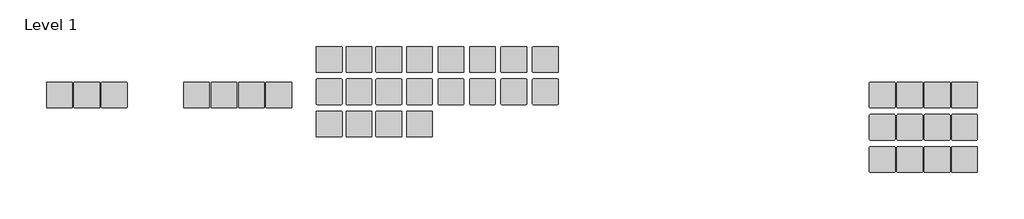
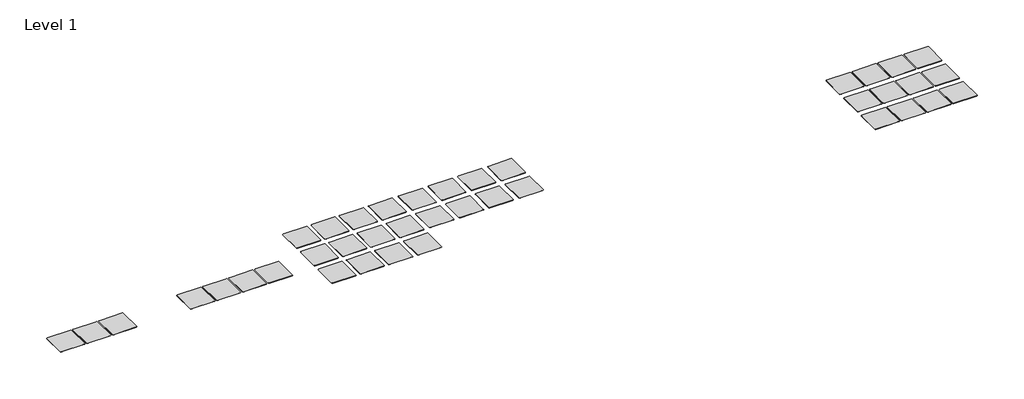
# One storey: 39 proxies.
"""IFC4 building model written with IfcOpenShell, lengths in millimetres."""

from ifc_helpers import new_model, si_unit, origin, place, context, project, spatial, transform, mapped, element, save
from components import materialsample_type_1_aebe469f

model = new_model("IFC4")

# Units and contexts
model_context = context("Model", 3, world=origin())
ifc_project = project(units=[si_unit("LENGTHUNIT", "METRE", prefix="MILLI")], contexts=[model_context])

# Site, building, storey
site = spatial("IfcSite", under=ifc_project)
building = spatial("IfcBuilding", under=site)
storey = spatial("IfcBuildingStorey", under=building, Name="Level 1", Elevation=0.0)

# Proxies
placement = place(None, origin())
materialsample_type_1_shape = materialsample_type_1_aebe469f(model_context)
element("IfcBuildingElementProxy", 1, Name="MaterialSample : Type 1", ObjectType="MaterialSample : Type 1", at=placement, inside=storey, context=model_context, shape_type="MappedRepresentation", body=[
    mapped(materialsample_type_1_shape, transform((25476.2, 304.8, 0.0), x_axis=(1.0, 0.0, 0.0), y_axis=(0.0, 1.0, 0.0), z_axis=(0.0, 0.0, 1.0))),
])
element("IfcBuildingElementProxy", 2, Name="MaterialSample : Type 1", ObjectType="MaterialSample : Type 1", at=placement, inside=storey, context=model_context, shape_type="MappedRepresentation", body=[
    mapped(materialsample_type_1_shape, transform((0.0, 0.0, 0.0), x_axis=(1.0, 0.0, 0.0), y_axis=(0.0, 1.0, 0.0), z_axis=(0.0, 0.0, 1.0))),
])
element("IfcBuildingElementProxy", 3, Name="MaterialSample : Type 1", ObjectType="MaterialSample : Type 1", at=placement, inside=storey, context=model_context, shape_type="MappedRepresentation", body=[
    mapped(materialsample_type_1_shape, transform((25476.2, 3352.8, 0.0), x_axis=(1.0, 0.0, 0.0), y_axis=(0.0, 1.0, 0.0), z_axis=(0.0, 0.0, 1.0))),
])
element("IfcBuildingElementProxy", 4, Name="MaterialSample : Type 1", ObjectType="MaterialSample : Type 1", at=placement, inside=storey, context=model_context, shape_type="MappedRepresentation", body=[
    mapped(materialsample_type_1_shape, transform((2590.8, 0.0, 0.0), x_axis=(1.0, 0.0, 0.0), y_axis=(0.0, 1.0, 0.0), z_axis=(0.0, 0.0, 1.0))),
])
element("IfcBuildingElementProxy", 5, Name="MaterialSample : Type 1", ObjectType="MaterialSample : Type 1", at=placement, inside=storey, context=model_context, shape_type="MappedRepresentation", body=[
    mapped(materialsample_type_1_shape, transform((28295.6, 3352.8, 0.0), x_axis=(1.0, 0.0, 0.0), y_axis=(0.0, 1.0, 0.0), z_axis=(0.0, 0.0, 1.0))),
])
element("IfcBuildingElementProxy", 6, Name="MaterialSample : Type 1", ObjectType="MaterialSample : Type 1", at=placement, inside=storey, context=model_context, shape_type="MappedRepresentation", body=[
    mapped(materialsample_type_1_shape, transform((5181.6, 0.0, 0.0), x_axis=(1.0, 0.0, 0.0), y_axis=(0.0, 1.0, 0.0), z_axis=(0.0, 0.0, 1.0))),
])
element("IfcBuildingElementProxy", 7, Name="MaterialSample : Type 1", ObjectType="MaterialSample : Type 1", at=placement, inside=storey, context=model_context, shape_type="MappedRepresentation", body=[
    mapped(materialsample_type_1_shape, transform((34010.6, 3352.8, 0.0), x_axis=(1.0, 0.0, 0.0), y_axis=(0.0, 1.0, 0.0), z_axis=(0.0, 0.0, 1.0))),
])
element("IfcBuildingElementProxy", 8, Name="MaterialSample : Type 1", ObjectType="MaterialSample : Type 1", at=placement, inside=storey, context=model_context, shape_type="MappedRepresentation", body=[
    mapped(materialsample_type_1_shape, transform((31115.0, 3352.8, 0.0), x_axis=(1.0, 0.0, 0.0), y_axis=(0.0, 1.0, 0.0), z_axis=(0.0, 0.0, 1.0))),
])
element("IfcBuildingElementProxy", 9, Name="MaterialSample : Type 1", ObjectType="MaterialSample : Type 1", at=placement, inside=storey, context=model_context, shape_type="MappedRepresentation", body=[
    mapped(materialsample_type_1_shape, transform((12954.0, 0.0, 0.0), x_axis=(1.0, 0.0, 0.0), y_axis=(0.0, 1.0, 0.0), z_axis=(0.0, 0.0, 1.0))),
])
element("IfcBuildingElementProxy", 10, Name="MaterialSample : Type 1", ObjectType="MaterialSample : Type 1", at=placement, inside=storey, context=model_context, shape_type="MappedRepresentation", body=[
    mapped(materialsample_type_1_shape, transform((15544.8, 0.0, 0.0), x_axis=(1.0, 0.0, 0.0), y_axis=(0.0, 1.0, 0.0), z_axis=(0.0, 0.0, 1.0))),
])
element("IfcBuildingElementProxy", 11, Name="MaterialSample : Type 1", ObjectType="MaterialSample : Type 1", at=placement, inside=storey, context=model_context, shape_type="MappedRepresentation", body=[
    mapped(materialsample_type_1_shape, transform((18135.6, 0.0, 0.0), x_axis=(1.0, 0.0, 0.0), y_axis=(0.0, 1.0, 0.0), z_axis=(0.0, 0.0, 1.0))),
])
element("IfcBuildingElementProxy", 12, Name="MaterialSample : Type 1", ObjectType="MaterialSample : Type 1", at=placement, inside=storey, context=model_context, shape_type="MappedRepresentation", body=[
    mapped(materialsample_type_1_shape, transform((20726.4, 0.0, 0.0), x_axis=(1.0, 0.0, 0.0), y_axis=(0.0, 1.0, 0.0), z_axis=(0.0, 0.0, 1.0))),
])
element("IfcBuildingElementProxy", 13, Name="MaterialSample : Type 1", ObjectType="MaterialSample : Type 1", at=placement, inside=storey, context=model_context, shape_type="MappedRepresentation", body=[
    mapped(materialsample_type_1_shape, transform((28295.6, 304.8, 0.0), x_axis=(1.0, 0.0, 0.0), y_axis=(0.0, 1.0, 0.0), z_axis=(0.0, 0.0, 1.0))),
])
element("IfcBuildingElementProxy", 14, Name="MaterialSample : Type 1", ObjectType="MaterialSample : Type 1", at=placement, inside=storey, context=model_context, shape_type="MappedRepresentation", body=[
    mapped(materialsample_type_1_shape, transform((31115.0, 304.8, 0.0), x_axis=(1.0, 0.0, 0.0), y_axis=(0.0, 1.0, 0.0), z_axis=(0.0, 0.0, 1.0))),
])
element("IfcBuildingElementProxy", 15, Name="MaterialSample : Type 1", ObjectType="MaterialSample : Type 1", at=placement, inside=storey, context=model_context, shape_type="MappedRepresentation", body=[
    mapped(materialsample_type_1_shape, transform((34010.6, 304.8, 0.0), x_axis=(1.0, 0.0, 0.0), y_axis=(0.0, 1.0, 0.0), z_axis=(0.0, 0.0, 1.0))),
])
element("IfcBuildingElementProxy", 16, Name="MaterialSample : Type 1", ObjectType="MaterialSample : Type 1", at=placement, inside=storey, context=model_context, shape_type="MappedRepresentation", body=[
    mapped(materialsample_type_1_shape, transform((25476.2, -2743.2, 0.0), x_axis=(1.0, 0.0, 0.0), y_axis=(0.0, 1.0, 0.0), z_axis=(0.0, 0.0, 1.0))),
])
element("IfcBuildingElementProxy", 17, Name="MaterialSample : Type 1", ObjectType="MaterialSample : Type 1", at=placement, inside=storey, context=model_context, shape_type="MappedRepresentation", body=[
    mapped(materialsample_type_1_shape, transform((28295.6, -2743.2, 0.0), x_axis=(1.0, 0.0, 0.0), y_axis=(0.0, 1.0, 0.0), z_axis=(0.0, 0.0, 1.0))),
])
element("IfcBuildingElementProxy", 18, Name="MaterialSample : Type 1", ObjectType="MaterialSample : Type 1", at=placement, inside=storey, context=model_context, shape_type="MappedRepresentation", body=[
    mapped(materialsample_type_1_shape, transform((31115.0, -2743.2, 0.0), x_axis=(1.0, 0.0, 0.0), y_axis=(0.0, 1.0, 0.0), z_axis=(0.0, 0.0, 1.0))),
])
element("IfcBuildingElementProxy", 19, Name="MaterialSample : Type 1", ObjectType="MaterialSample : Type 1", at=placement, inside=storey, context=model_context, shape_type="MappedRepresentation", body=[
    mapped(materialsample_type_1_shape, transform((34010.6, -2743.2, 0.0), x_axis=(1.0, 0.0, 0.0), y_axis=(0.0, 1.0, 0.0), z_axis=(0.0, 0.0, 1.0))),
])
element("IfcBuildingElementProxy", 20, Name="MaterialSample : Type 1", ObjectType="MaterialSample : Type 1", at=placement, inside=storey, context=model_context, shape_type="MappedRepresentation", body=[
    mapped(materialsample_type_1_shape, transform((36982.4, 3352.8, 0.0), x_axis=(1.0, 0.0, 0.0), y_axis=(0.0, 1.0, 0.0), z_axis=(0.0, 0.0, 1.0))),
])
element("IfcBuildingElementProxy", 21, Name="MaterialSample : Type 1", ObjectType="MaterialSample : Type 1", at=placement, inside=storey, context=model_context, shape_type="MappedRepresentation", body=[
    mapped(materialsample_type_1_shape, transform((39954.2, 3352.8, 0.0), x_axis=(1.0, 0.0, 0.0), y_axis=(0.0, 1.0, 0.0), z_axis=(0.0, 0.0, 1.0))),
])
element("IfcBuildingElementProxy", 22, Name="MaterialSample : Type 1", ObjectType="MaterialSample : Type 1", at=placement, inside=storey, context=model_context, shape_type="MappedRepresentation", body=[
    mapped(materialsample_type_1_shape, transform((42926.0, 3352.8, 0.0), x_axis=(1.0, 0.0, 0.0), y_axis=(0.0, 1.0, 0.0), z_axis=(0.0, 0.0, 1.0))),
])
element("IfcBuildingElementProxy", 23, Name="MaterialSample : Type 1", ObjectType="MaterialSample : Type 1", at=placement, inside=storey, context=model_context, shape_type="MappedRepresentation", body=[
    mapped(materialsample_type_1_shape, transform((45897.8, 3352.8, 0.0), x_axis=(1.0, 0.0, 0.0), y_axis=(0.0, 1.0, 0.0), z_axis=(0.0, 0.0, 1.0))),
])
element("IfcBuildingElementProxy", 24, Name="MaterialSample : Type 1", ObjectType="MaterialSample : Type 1", at=placement, inside=storey, context=model_context, shape_type="MappedRepresentation", body=[
    mapped(materialsample_type_1_shape, transform((36982.4, 304.8, 0.0), x_axis=(1.0, 0.0, 0.0), y_axis=(0.0, 1.0, 0.0), z_axis=(0.0, 0.0, 1.0))),
])
element("IfcBuildingElementProxy", 25, Name="MaterialSample : Type 1", ObjectType="MaterialSample : Type 1", at=placement, inside=storey, context=model_context, shape_type="MappedRepresentation", body=[
    mapped(materialsample_type_1_shape, transform((39954.2, 304.8, 0.0), x_axis=(1.0, 0.0, 0.0), y_axis=(0.0, 1.0, 0.0), z_axis=(0.0, 0.0, 1.0))),
])
element("IfcBuildingElementProxy", 26, Name="MaterialSample : Type 1", ObjectType="MaterialSample : Type 1", at=placement, inside=storey, context=model_context, shape_type="MappedRepresentation", body=[
    mapped(materialsample_type_1_shape, transform((42926.0, 304.8, 0.0), x_axis=(1.0, 0.0, 0.0), y_axis=(0.0, 1.0, 0.0), z_axis=(0.0, 0.0, 1.0))),
])
element("IfcBuildingElementProxy", 27, Name="MaterialSample : Type 1", ObjectType="MaterialSample : Type 1", at=placement, inside=storey, context=model_context, shape_type="MappedRepresentation", body=[
    mapped(materialsample_type_1_shape, transform((45897.8, 304.8, 0.0), x_axis=(1.0, 0.0, 0.0), y_axis=(0.0, 1.0, 0.0), z_axis=(0.0, 0.0, 1.0))),
])
element("IfcBuildingElementProxy", 28, Name="MaterialSample : Type 1", ObjectType="MaterialSample : Type 1", at=placement, inside=storey, context=model_context, shape_type="MappedRepresentation", body=[
    mapped(materialsample_type_1_shape, transform((77724.0, 0.0, 0.0), x_axis=(1.0, 0.0, 0.0), y_axis=(0.0, 1.0, 0.0), z_axis=(0.0, 0.0, 1.0))),
])
element("IfcBuildingElementProxy", 29, Name="MaterialSample : Type 1", ObjectType="MaterialSample : Type 1", at=placement, inside=storey, context=model_context, shape_type="MappedRepresentation", body=[
    mapped(materialsample_type_1_shape, transform((80314.8, 0.0, 0.0), x_axis=(1.0, 0.0, 0.0), y_axis=(0.0, 1.0, 0.0), z_axis=(0.0, 0.0, 1.0))),
])
element("IfcBuildingElementProxy", 30, Name="MaterialSample : Type 1", ObjectType="MaterialSample : Type 1", at=placement, inside=storey, context=model_context, shape_type="MappedRepresentation", body=[
    mapped(materialsample_type_1_shape, transform((82905.6, 0.0, 0.0), x_axis=(1.0, 0.0, 0.0), y_axis=(0.0, 1.0, 0.0), z_axis=(0.0, 0.0, 1.0))),
])
element("IfcBuildingElementProxy", 31, Name="MaterialSample : Type 1", ObjectType="MaterialSample : Type 1", at=placement, inside=storey, context=model_context, shape_type="MappedRepresentation", body=[
    mapped(materialsample_type_1_shape, transform((85496.4, 0.0, 0.0), x_axis=(1.0, 0.0, 0.0), y_axis=(0.0, 1.0, 0.0), z_axis=(0.0, 0.0, 1.0))),
])
element("IfcBuildingElementProxy", 32, Name="MaterialSample : Type 1", ObjectType="MaterialSample : Type 1", at=placement, inside=storey, context=model_context, shape_type="MappedRepresentation", body=[
    mapped(materialsample_type_1_shape, transform((77724.0, -3048.0, 0.0), x_axis=(1.0, 0.0, 0.0), y_axis=(0.0, 1.0, 0.0), z_axis=(0.0, 0.0, 1.0))),
])
element("IfcBuildingElementProxy", 33, Name="MaterialSample : Type 1", ObjectType="MaterialSample : Type 1", at=placement, inside=storey, context=model_context, shape_type="MappedRepresentation", body=[
    mapped(materialsample_type_1_shape, transform((80314.8, -3048.0, 0.0), x_axis=(1.0, 0.0, 0.0), y_axis=(0.0, 1.0, 0.0), z_axis=(0.0, 0.0, 1.0))),
])
element("IfcBuildingElementProxy", 34, Name="MaterialSample : Type 1", ObjectType="MaterialSample : Type 1", at=placement, inside=storey, context=model_context, shape_type="MappedRepresentation", body=[
    mapped(materialsample_type_1_shape, transform((82905.6, -3048.0, 0.0), x_axis=(1.0, 0.0, 0.0), y_axis=(0.0, 1.0, 0.0), z_axis=(0.0, 0.0, 1.0))),
])
element("IfcBuildingElementProxy", 35, Name="MaterialSample : Type 1", ObjectType="MaterialSample : Type 1", at=placement, inside=storey, context=model_context, shape_type="MappedRepresentation", body=[
    mapped(materialsample_type_1_shape, transform((85496.4, -3048.0, 0.0), x_axis=(1.0, 0.0, 0.0), y_axis=(0.0, 1.0, 0.0), z_axis=(0.0, 0.0, 1.0))),
])
element("IfcBuildingElementProxy", 36, Name="MaterialSample : Type 1", ObjectType="MaterialSample : Type 1", at=placement, inside=storey, context=model_context, shape_type="MappedRepresentation", body=[
    mapped(materialsample_type_1_shape, transform((77724.0, -6096.0, 0.0), x_axis=(1.0, 0.0, 0.0), y_axis=(0.0, 1.0, 0.0), z_axis=(0.0, 0.0, 1.0))),
])
element("IfcBuildingElementProxy", 37, Name="MaterialSample : Type 1", ObjectType="MaterialSample : Type 1", at=placement, inside=storey, context=model_context, shape_type="MappedRepresentation", body=[
    mapped(materialsample_type_1_shape, transform((80314.8, -6096.0, 0.0), x_axis=(1.0, 0.0, 0.0), y_axis=(0.0, 1.0, 0.0), z_axis=(0.0, 0.0, 1.0))),
])
element("IfcBuildingElementProxy", 38, Name="MaterialSample : Type 1", ObjectType="MaterialSample : Type 1", at=placement, inside=storey, context=model_context, shape_type="MappedRepresentation", body=[
    mapped(materialsample_type_1_shape, transform((82905.6, -6096.0, 0.0), x_axis=(1.0, 0.0, 0.0), y_axis=(0.0, 1.0, 0.0), z_axis=(0.0, 0.0, 1.0))),
])
element("IfcBuildingElementProxy", 39, Name="MaterialSample : Type 1", ObjectType="MaterialSample : Type 1", at=placement, inside=storey, context=model_context, shape_type="MappedRepresentation", body=[
    mapped(materialsample_type_1_shape, transform((85496.4, -6096.0, 0.0), x_axis=(1.0, 0.0, 0.0), y_axis=(0.0, 1.0, 0.0), z_axis=(0.0, 0.0, 1.0))),
])

save(model, "model.ifc")
